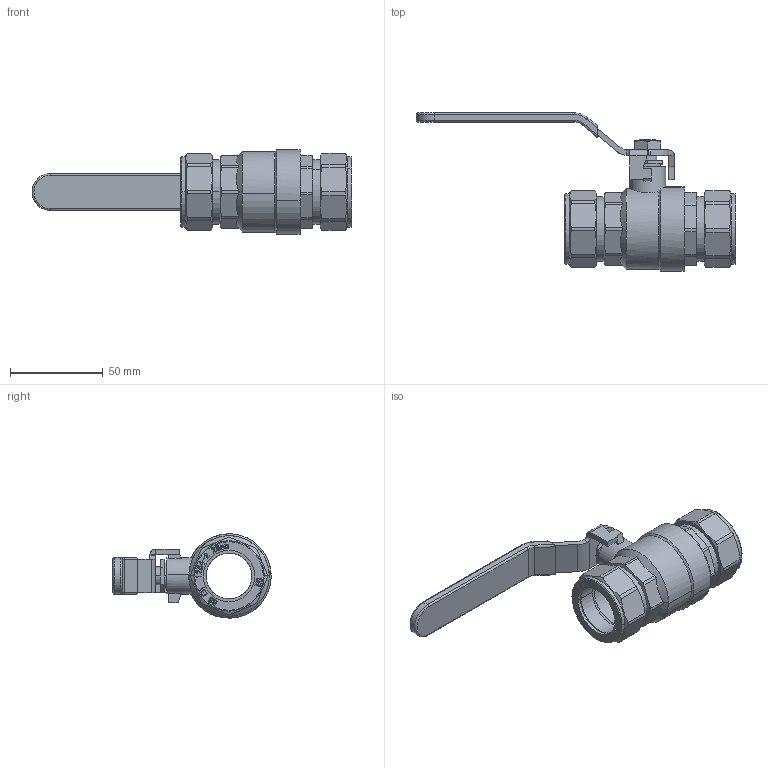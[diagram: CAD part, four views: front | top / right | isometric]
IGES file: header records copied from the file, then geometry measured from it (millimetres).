
Global section: file name: No Iges File Name specified; native system: AutoDesk Inventor R12.0; preprocessor: AutoDesk Inventor Iges Exporter R12.0; date: 20110127.130200; units: millimetre
Bounding box: 172.72 x 85.45 x 45.46 mm (x, y, z)
Volume: 91637.1 mm3; surface area: 54950 mm2
Topology: 6 solids, 6 shells, 2070 faces, 5578 edges, 3689 vertices
Faces by surface type: plane 1083, bspline 694, revolution 100, cylinder 92, cone 73, torus 24, sphere 4
